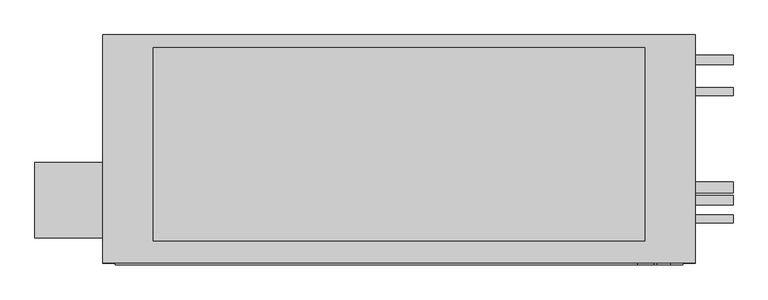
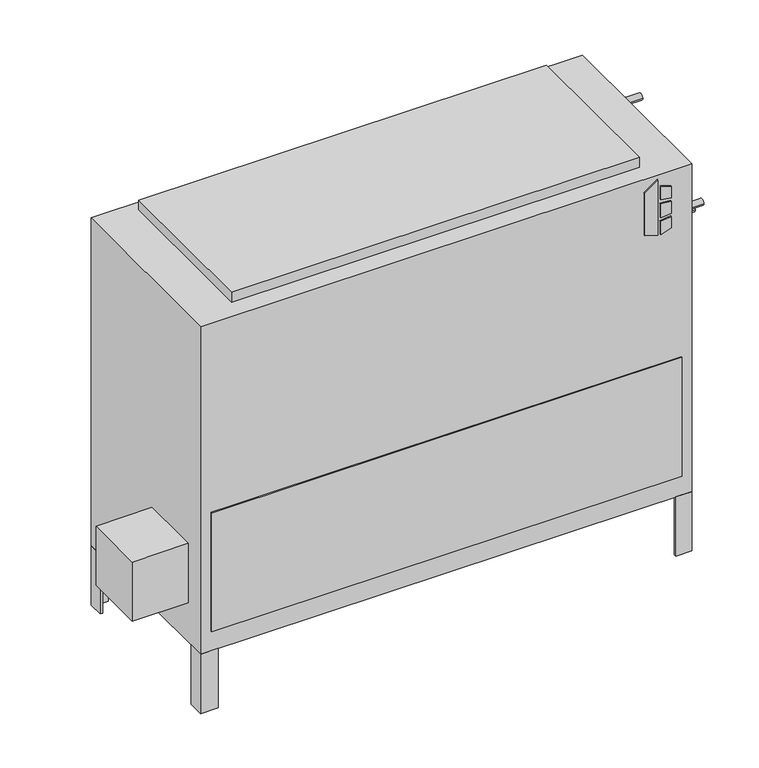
"""IFC4 building model written with IfcOpenShell, lengths in millimetres: proxy geometry, Concealed_High_Capacity_Vertical_Fan_Coil_Unit_-_VEY_-_IEC_-_4-Pipe_RH_2022 : Size 16 - 277v/60Hz/1Ph - 4/2 Coil."""

from ifc_helpers import new_model, si_unit, point, frame, frame_2d, origin, origin_with_axes, place, context, project, spatial, polyline, circle_curve, trimmed, segment, composite_curve, outline, extrude, source, transform, mapped, element, save


def mechanical_equipment_70a036e3(model_context):
    return source(origin(), model_context, "Body", "SweptSolid", [
        extrude(outline(polyline([(698.9230703, 633.4868862), (688.975, 665.6602728), (831.1459244, 665.6602728), (808.1239183, 633.4868862), (698.9230703, 633.4868862)])), frame((0.0, -471.4875, 0.0), z_axis=(0.0, 1.0, 0.0), x_axis=(0.0, 0.0, 1.0)), (0.0, 0.0, 1.0), 3.175),
        extrude(outline(polyline([(777.9223557, 672.4186058), (774.7199632, 698.5), (803.9488042, 698.5), (812.0132193, 672.4186058), (777.9223557, 672.4186058)])), frame((0.0, -471.4875, 0.0), z_axis=(0.0, 1.0, 0.0), x_axis=(0.0, 0.0, 1.0)), (0.0, 0.0, 1.0), 3.175),
        extrude(outline(polyline([(726.0588288, 698.5), (722.3933279, 672.4186058), (688.975, 672.4186058), (697.6092372, 698.5), (726.0588288, 698.5)])), frame((0.0, -471.4875, 0.0), z_axis=(0.0, 1.0, 0.0), x_axis=(0.0, 0.0, 1.0)), (0.0, 0.0, 1.0), 3.175),
        extrude(outline(polyline([(765.3739903, 698.5), (767.6558166, 672.4186058), (731.7182681, 672.4186058), (734.4595331, 698.5), (765.3739903, 698.5)])), frame((0.0, -471.4875, 0.0), z_axis=(0.0, 1.0, 0.0), x_axis=(0.0, 0.0, 1.0)), (0.0, 0.0, 1.0), 3.175),
        extrude(outline(polyline([(-581.025, -417.5125), (-581.025, -265.1125), (-444.5, -265.1125), (-444.5, -417.5125), (-581.025, -417.5125)])), frame((0.0, 0.0, 101.6), z_axis=(0.0, 0.0, 1.0), x_axis=(1.0, 0.0, 0.0)), (0.0, 0.0, 1.0), 152.4),
        extrude(outline(polyline([(749.3, -46.0375), (742.95, -46.0375), (742.95, -14.2875), (711.2, -14.2875), (711.2, -7.9375), (749.3, -7.9375), (749.3, -46.0375)])), frame((0.0, 0.0, -152.4), z_axis=(0.0, 0.0, 1.0), x_axis=(1.0, 0.0, 0.0)), (0.0, 0.0, 1.0), 152.4),
        extrude(outline(polyline([(-406.4, -7.9375), (-406.4, -14.2875), (-438.15, -14.2875), (-438.15, -46.0375), (-444.5, -46.0375), (-444.5, -7.9375), (-406.4, -7.9375)])), frame((0.0, 0.0, -152.4), z_axis=(0.0, 0.0, 1.0), x_axis=(1.0, 0.0, 0.0)), (0.0, 0.0, 1.0), 152.4),
        extrude(outline(polyline([(711.2, -468.3125), (711.2, -461.9625), (742.95, -461.9625), (742.95, -430.2125), (749.3, -430.2125), (749.3, -468.3125), (711.2, -468.3125)])), frame((0.0, 0.0, -152.4), z_axis=(0.0, 0.0, 1.0), x_axis=(1.0, 0.0, 0.0)), (0.0, 0.0, 1.0), 152.4),
        extrude(outline(polyline([(-444.5, -428.1199163), (-438.15, -428.1199163), (-438.15, -461.9625), (-401.0318533, -461.9625), (-401.0318533, -468.3125), (-444.5, -468.3125), (-444.5, -428.1199163)])), frame((0.0, 0.0, -152.4), z_axis=(0.0, 0.0, 1.0), x_axis=(1.0, 0.0, 0.0)), (0.0, 0.0, 1.0), 152.4),
        extrude(outline(polyline([(647.7, -33.3375), (647.7, -423.8625), (-342.9, -423.8625), (-342.9, -33.3375), (647.7, -33.3375)])), frame((0.0, 0.0, 841.375), z_axis=(0.0, 0.0, 1.0), x_axis=(1.0, 0.0, 0.0)), (0.0, 0.0, 1.0), 25.4),
        extrude(outline(polyline([(723.9, -471.4875), (-419.1, -471.4875), (-419.1, -468.3125), (723.9, -468.3125), (723.9, -471.4875)])), frame((0.0, 0.0, 50.8), z_axis=(0.0, 0.0, 1.0), x_axis=(1.0, 0.0, 0.0)), (0.0, 0.0, 1.0), 304.8),
        extrude(outline(composite_curve([segment(trimmed(circle_curve(frame_2d((-122.2375, 777.875)), 7.9375), [point((-114.3, 777.875))], [point((-130.175, 777.875))], False, "CARTESIAN"), True, "CONTINUOUS"), segment(trimmed(circle_curve(frame_2d((-122.2375, 777.875)), 7.9375), [point((-130.175, 777.875))], [point((-114.3, 777.875))], False, "CARTESIAN"), True, "CONTINUOUS")], self_intersect=False)), frame((749.3, 0.0, 0.0), z_axis=(1.0, 0.0, 0.0), x_axis=(0.0, 1.0, 0.0)), (0.0, 0.0, 1.0), 76.2),
        extrude(outline(composite_curve([segment(trimmed(circle_curve(frame_2d((-379.4125, 663.575)), 7.9375), [point((-371.475, 663.575))], [point((-387.35, 663.575))], False, "CARTESIAN"), True, "CONTINUOUS"), segment(trimmed(circle_curve(frame_2d((-379.4125, 663.575)), 7.9375), [point((-387.35, 663.575))], [point((-371.475, 663.575))], False, "CARTESIAN"), True, "CONTINUOUS")], self_intersect=False)), frame((749.3, 0.0, 0.0), z_axis=(1.0, 0.0, 0.0), x_axis=(0.0, 1.0, 0.0)), (0.0, 0.0, 1.0), 76.2),
        extrude(outline(composite_curve([segment(trimmed(circle_curve(frame_2d((-58.7375, 727.075)), 9.525), [point((-49.2125, 727.075))], [point((-68.2625, 727.075))], False, "CARTESIAN"), True, "CONTINUOUS"), segment(trimmed(circle_curve(frame_2d((-58.7375, 727.075)), 9.525), [point((-68.2625, 727.075))], [point((-49.2125, 727.075))], False, "CARTESIAN"), True, "CONTINUOUS")], self_intersect=False)), frame((749.3, 0.0, 0.0), z_axis=(1.0, 0.0, 0.0), x_axis=(0.0, 1.0, 0.0)), (0.0, 0.0, 1.0), 76.2),
        extrude(outline(composite_curve([segment(trimmed(circle_curve(frame_2d((-341.3125, 625.475)), 9.525), [point((-331.7875, 625.475))], [point((-350.8375, 625.475))], False, "CARTESIAN"), True, "CONTINUOUS"), segment(trimmed(circle_curve(frame_2d((-341.3125, 625.475)), 9.525), [point((-350.8375, 625.475))], [point((-331.7875, 625.475))], False, "CARTESIAN"), True, "CONTINUOUS")], self_intersect=False)), frame((749.3, 0.0, 0.0), z_axis=(1.0, 0.0, 0.0), x_axis=(0.0, 1.0, 0.0)), (0.0, 0.0, 1.0), 76.2),
        extrude(outline(composite_curve([segment(trimmed(circle_curve(frame_2d((-315.9125, 536.575)), 11.1125), [point((-304.8, 536.575))], [point((-327.025, 536.575))], False, "CARTESIAN"), True, "CONTINUOUS"), segment(trimmed(circle_curve(frame_2d((-315.9125, 536.575)), 11.1125), [point((-327.025, 536.575))], [point((-304.8, 536.575))], False, "CARTESIAN"), True, "CONTINUOUS")], self_intersect=False)), frame((749.3, 0.0, 0.0), z_axis=(1.0, 0.0, 0.0), x_axis=(0.0, 1.0, 0.0)), (0.0, 0.0, 1.0), 76.2),
        extrude(outline(polyline([(749.3, -7.9375), (749.3, -468.3125), (-444.5, -468.3125), (-444.5, -7.9375), (749.3, -7.9375)])), origin_with_axes(), (0.0, 0.0, 1.0), 841.375),
    ])


if __name__ == "__main__":
    model = new_model("IFC4")
    model_context = context("Model", 3, world=origin())
    ifc_project = project(units=[si_unit("LENGTHUNIT", "METRE", prefix="MILLI")], contexts=[model_context])
    site = spatial("IfcSite", under=ifc_project)
    building = spatial("IfcBuilding", under=site)
    placement = place(None, origin())
    mechanical_equipment_shape = mechanical_equipment_70a036e3(model_context)
    element("IfcBuildingElementProxy", 1, Name="Concealed_High_Capacity_Vertical_Fan_Coil_Unit_-_VEY_-_IEC_-_4-Pipe_RH_2022 : Size 16 - 277v/60Hz/1Ph - 4/2 Coil", ObjectType="Concealed_High_Capacity_Vertical_Fan_Coil_Unit_-_VEY_-_IEC_-_4-Pipe_RH_2022 : Size 16 - 277v/60Hz/1Ph - 4/2 Coil", at=placement, inside=building, context=model_context, shape_type="MappedRepresentation", body=[
        mapped(mechanical_equipment_shape, transform((0.0, 0.0, 0.0), x_axis=(1.0, 0.0, 0.0), y_axis=(0.0, 1.0, 0.0), z_axis=(0.0, 0.0, 1.0))),
    ])
    save(model, "model.ifc")
